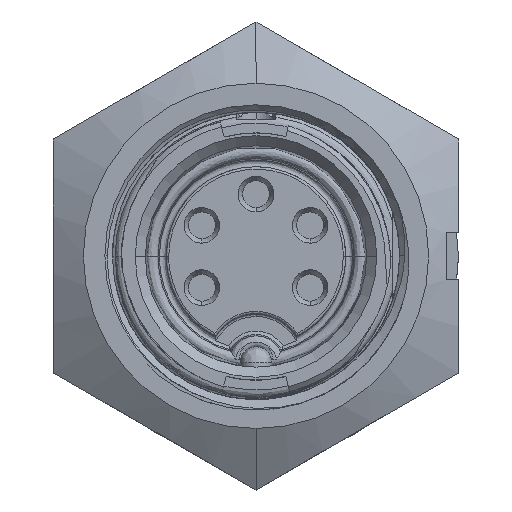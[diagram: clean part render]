
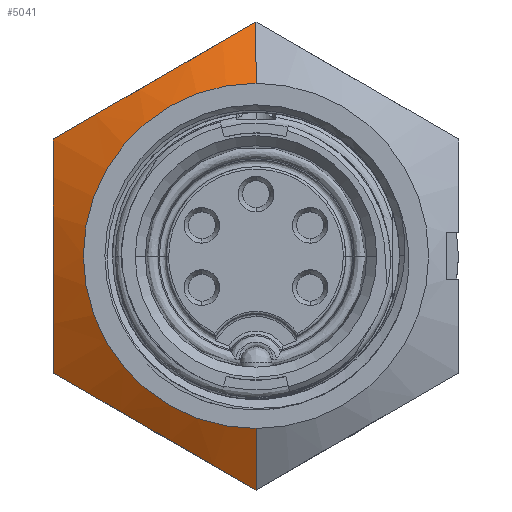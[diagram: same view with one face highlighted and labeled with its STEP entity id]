
A CAD part, top view. The second image highlights one B-rep face of the part: STEP entity #5041.
In plain terms, the highlighted conical face has half-angle 60 degrees and reference radius 11.934 mm.
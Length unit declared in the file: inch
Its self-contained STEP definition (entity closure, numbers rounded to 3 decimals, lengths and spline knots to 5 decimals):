
#755 = LINE ( 'NONE', #22294, #882 ) ;
#882 = VECTOR ( 'NONE', #21808, 39.37008 ) ;
#2177 = EDGE_CURVE ( 'NONE', #12605, #7221, #16571, .T. ) ;
#4875 = CARTESIAN_POINT ( 'NONE',  ( 0., 0.4691, 1.07 ) ) ;
#5041 = ADVANCED_FACE ( 'NONE', ( #17468 ), #18097, .T. ) ;
#6680 = ORIENTED_EDGE ( 'NONE', *, *, #11418, .T. ) ;
#7105 = ORIENTED_EDGE ( 'NONE', *, *, #8960, .T. ) ;
#7221 = VERTEX_POINT ( 'NONE', #12617 ) ;
#7281 = EDGE_CURVE ( 'NONE', #30192, #12605, #24967, .T. ) ;
#7598 = ORIENTED_EDGE ( 'NONE', *, *, #2177, .T. ) ;
#7826 = ORIENTED_EDGE ( 'NONE', *, *, #7281, .T. ) ;
#8053 = VERTEX_POINT ( 'NONE', #11832 ) ;
#8073 = ORIENTED_EDGE ( 'NONE', *, *, #25737, .T. ) ;
#8266 = ORIENTED_EDGE ( 'NONE', *, *, #15104, .F. ) ;
#8852 = VERTEX_POINT ( 'NONE', #27675 ) ;
#8882 = AXIS2_PLACEMENT_3D ( 'NONE', #12408, #29697, #14814 ) ;
#8960 = EDGE_CURVE ( 'NONE', #7221, #8852, #17642, .T. ) ;
#9907 = CARTESIAN_POINT ( 'NONE',  ( 0., -0.4691, 1.07 ) ) ;
#11418 = EDGE_CURVE ( 'NONE', #8852, #12098, #12041, .T. ) ;
#11832 = CARTESIAN_POINT ( 'NONE',  ( 0., -0.34612, 1.141 ) ) ;
#12041 = B_SPLINE_CURVE_WITH_KNOTS ( 'NONE', 3,
 ( #29729, #29585, #29512, #29451, #29412, #29348, #29316, #29243, #29204, #29134, #29093, #29022 ),
 .UNSPECIFIED., .F., .F.,
 ( 4, 2, 2, 2, 2, 4 ),
 ( 0., 0.00301, 0.00602, 0.00752, 0.00903, 0.01203 ),
 .UNSPECIFIED. ) ;
#12076 = DIRECTION ( 'NONE',  ( 0., 0.866, -0.5 ) ) ;
#12098 = VERTEX_POINT ( 'NONE', #9907 ) ;
#12408 = CARTESIAN_POINT ( 'NONE',  ( 0., 0., 1.141 ) ) ;
#12605 = VERTEX_POINT ( 'NONE', #4875 ) ;
#12617 = CARTESIAN_POINT ( 'NONE',  ( -0.40625, 0.23455, 1.07 ) ) ;
#12857 = CARTESIAN_POINT ( 'NONE',  ( 0., 0.46983, 1.06957 ) ) ;
#14814 = DIRECTION ( 'NONE',  ( 0., 1., 0. ) ) ;
#15104 = EDGE_CURVE ( 'NONE', #8053, #12098, #755, .T. ) ;
#16571 = B_SPLINE_CURVE_WITH_KNOTS ( 'NONE', 3,
 ( #27023, #32083, #27061, #26957, #26922, #26920, #26875, #26849, #26814, #26813, #26777, #26770 ),
 .UNSPECIFIED., .F., .F.,
 ( 4, 2, 2, 2, 2, 4 ),
 ( 0., 0.00301, 0.00602, 0.00752, 0.00903, 0.01203 ),
 .UNSPECIFIED. ) ;
#17468 = FACE_OUTER_BOUND ( 'NONE', #18120, .T. ) ;
#17642 = B_SPLINE_CURVE_WITH_KNOTS ( 'NONE', 3,
 ( #26533, #26678, #26441, #26436, #26399, #26374, #26370, #26333, #26329, #26293, #26269, #26263 ),
 .UNSPECIFIED., .F., .F.,
 ( 4, 2, 2, 2, 2, 4 ),
 ( 0., 0.00301, 0.00602, 0.00752, 0.00903, 0.01203 ),
 .UNSPECIFIED. ) ;
#18097 = CONICAL_SURFACE ( 'NONE', #21626, 0.46983, 1.047 ) ;
#18120 = EDGE_LOOP ( 'NONE', ( #8266, #8073, #7826, #7598, #7105, #6680 ) ) ;
#21626 = AXIS2_PLACEMENT_3D ( 'NONE', #22281, #22432, #22075 ) ;
#21808 = DIRECTION ( 'NONE',  ( 0., -0.866, -0.5 ) ) ;
#22075 = DIRECTION ( 'NONE',  ( 0., 1., 0. ) ) ;
#22281 = CARTESIAN_POINT ( 'NONE',  ( 0., 0., 1.06957 ) ) ;
#22294 = CARTESIAN_POINT ( 'NONE',  ( 0., -0.46983, 1.06957 ) ) ;
#22432 = DIRECTION ( 'NONE',  ( 0., 0., -1. ) ) ;
#24750 = CIRCLE ( 'NONE', #8882, 0.34612 ) ;
#24967 = LINE ( 'NONE', #12857, #24994 ) ;
#24994 = VECTOR ( 'NONE', #12076, 39.37008 ) ;
#25737 = EDGE_CURVE ( 'NONE', #8053, #30192, #24750, .T. ) ;
#26263 = CARTESIAN_POINT ( 'NONE',  ( -0.40625, -0.23455, 1.07 ) ) ;
#26269 = CARTESIAN_POINT ( 'NONE',  ( -0.40625, -0.1962, 1.08107 ) ) ;
#26293 = CARTESIAN_POINT ( 'NONE',  ( -0.40625, -0.15754, 1.0902 ) ) ;
#26329 = CARTESIAN_POINT ( 'NONE',  ( -0.40625, -0.09884, 1.09969 ) ) ;
#26333 = CARTESIAN_POINT ( 'NONE',  ( -0.40625, -0.07916, 1.10214 ) ) ;
#26370 = CARTESIAN_POINT ( 'NONE',  ( -0.40625, -0.03953, 1.10545 ) ) ;
#26374 = CARTESIAN_POINT ( 'NONE',  ( -0.40625, -0.01949, 1.1063 ) ) ;
#26399 = CARTESIAN_POINT ( 'NONE',  ( -0.40625, 0.04033, 1.10626 ) ) ;
#26436 = CARTESIAN_POINT ( 'NONE',  ( -0.40625, 0.07972, 1.10279 ) ) ;
#26441 = CARTESIAN_POINT ( 'NONE',  ( -0.40625, 0.15767, 1.09017 ) ) ;
#26533 = CARTESIAN_POINT ( 'NONE',  ( -0.40625, 0.23455, 1.07 ) ) ;
#26678 = CARTESIAN_POINT ( 'NONE',  ( -0.40625, 0.19625, 1.08106 ) ) ;
#26770 = CARTESIAN_POINT ( 'NONE',  ( -0.40625, 0.23455, 1.07 ) ) ;
#26777 = CARTESIAN_POINT ( 'NONE',  ( -0.37304, 0.25372, 1.08107 ) ) ;
#26813 = CARTESIAN_POINT ( 'NONE',  ( -0.33956, 0.27305, 1.0902 ) ) ;
#26814 = CARTESIAN_POINT ( 'NONE',  ( -0.28872, 0.3024, 1.09969 ) ) ;
#26849 = CARTESIAN_POINT ( 'NONE',  ( -0.27168, 0.31224, 1.10214 ) ) ;
#26875 = CARTESIAN_POINT ( 'NONE',  ( -0.23736, 0.33206, 1.10545 ) ) ;
#26920 = CARTESIAN_POINT ( 'NONE',  ( -0.22001, 0.34208, 1.1063 ) ) ;
#26922 = CARTESIAN_POINT ( 'NONE',  ( -0.1682, 0.37199, 1.10626 ) ) ;
#26957 = CARTESIAN_POINT ( 'NONE',  ( -0.13409, 0.39168, 1.10279 ) ) ;
#27023 = CARTESIAN_POINT ( 'NONE',  ( 0., 0.4691, 1.07 ) ) ;
#27061 = CARTESIAN_POINT ( 'NONE',  ( -0.06657, 0.43066, 1.09017 ) ) ;
#27675 = CARTESIAN_POINT ( 'NONE',  ( -0.40625, -0.23455, 1.07 ) ) ;
#29022 = CARTESIAN_POINT ( 'NONE',  ( 0., -0.4691, 1.07 ) ) ;
#29093 = CARTESIAN_POINT ( 'NONE',  ( -0.03321, -0.44992, 1.08107 ) ) ;
#29134 = CARTESIAN_POINT ( 'NONE',  ( -0.06669, -0.43059, 1.0902 ) ) ;
#29204 = CARTESIAN_POINT ( 'NONE',  ( -0.11753, -0.40124, 1.09969 ) ) ;
#29243 = CARTESIAN_POINT ( 'NONE',  ( -0.13457, -0.3914, 1.10214 ) ) ;
#29316 = CARTESIAN_POINT ( 'NONE',  ( -0.16889, -0.37159, 1.10545 ) ) ;
#29348 = CARTESIAN_POINT ( 'NONE',  ( -0.18624, -0.36157, 1.1063 ) ) ;
#29412 = CARTESIAN_POINT ( 'NONE',  ( -0.23805, -0.33166, 1.10626 ) ) ;
#29451 = CARTESIAN_POINT ( 'NONE',  ( -0.27216, -0.31196, 1.10279 ) ) ;
#29512 = CARTESIAN_POINT ( 'NONE',  ( -0.33968, -0.27299, 1.09017 ) ) ;
#29585 = CARTESIAN_POINT ( 'NONE',  ( -0.37308, -0.2537, 1.08106 ) ) ;
#29697 = DIRECTION ( 'NONE',  ( 0., 0., -1. ) ) ;
#29729 = CARTESIAN_POINT ( 'NONE',  ( -0.40625, -0.23455, 1.07 ) ) ;
#30163 = CARTESIAN_POINT ( 'NONE',  ( 0., 0.34612, 1.141 ) ) ;
#30192 = VERTEX_POINT ( 'NONE', #30163 ) ;
#32083 = CARTESIAN_POINT ( 'NONE',  ( -0.03317, 0.44995, 1.08106 ) ) ;
